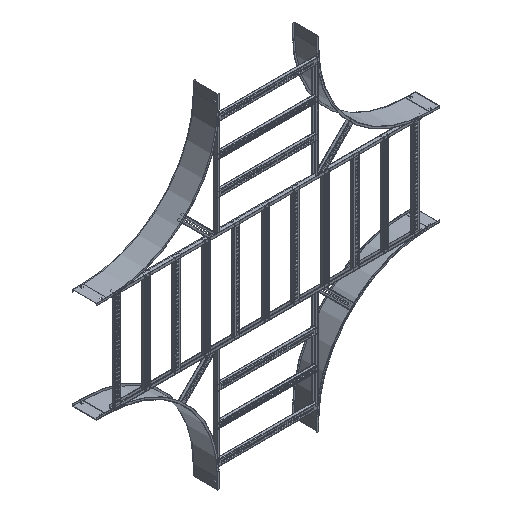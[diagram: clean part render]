
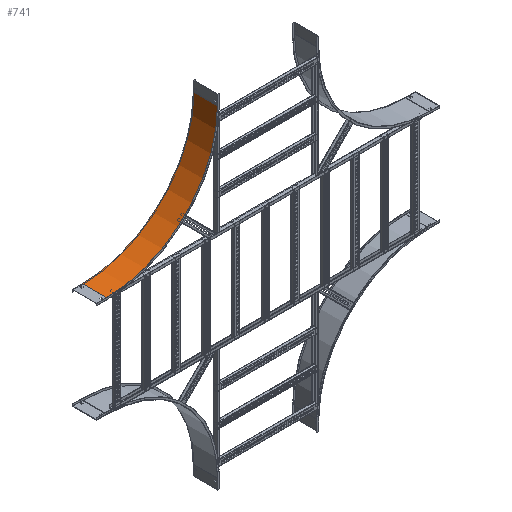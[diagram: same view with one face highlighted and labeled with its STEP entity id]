
A CAD part, isometric view. The second image highlights one B-rep face of the part: STEP entity #741.
In plain terms, the highlighted cylindrical face has radius 838.2 mm (diameter 1676.4 mm), a partial arc.
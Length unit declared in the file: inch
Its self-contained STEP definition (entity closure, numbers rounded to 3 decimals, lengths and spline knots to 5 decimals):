
#156=CARTESIAN_POINT('',(0.,-33.,3.));
#157=DIRECTION('',(1.,0.,0.));
#158=DIRECTION('',(0.,1.,0.));
#159=AXIS2_PLACEMENT_3D('',#156,#157,#158);
#165=DIRECTION('',(1.,0.,0.));
#166=VECTOR('',#165,7.24);
#167=CARTESIAN_POINT('',(-7.24,0.,3.));
#168=LINE('',#167,#166);
#169=CARTESIAN_POINT('',(-7.24,-33.,3.));
#170=DIRECTION('',(1.,0.,0.));
#171=DIRECTION('',(0.,1.,0.));
#172=AXIS2_PLACEMENT_3D('',#169,#170,#171);
#174=DIRECTION('',(1.,0.,0.));
#175=VECTOR('',#174,7.24);
#176=CARTESIAN_POINT('',(-7.24,-33.,36.));
#177=LINE('',#176,#175);
#409=CARTESIAN_POINT('',(-7.24,0.,3.));
#410=CARTESIAN_POINT('',(0.,0.,3.));
#411=VERTEX_POINT('',#409);
#412=VERTEX_POINT('',#410);
#425=CARTESIAN_POINT('',(-7.24,-33.,36.));
#426=CARTESIAN_POINT('',(0.,-33.,36.));
#427=VERTEX_POINT('',#425);
#428=VERTEX_POINT('',#426);
#729=CARTESIAN_POINT('',(-1.,-33.,3.));
#730=DIRECTION('',(1.,0.,0.));
#731=DIRECTION('',(0.,-1.,0.));
#732=AXIS2_PLACEMENT_3D('',#729,#730,#731);
#733=CYLINDRICAL_SURFACE('',#732,33.);
#734=ORIENTED_EDGE('',*,*,#553,.F.);
#735=ORIENTED_EDGE('',*,*,#596,.T.);
#737=ORIENTED_EDGE('',*,*,#736,.T.);
#738=ORIENTED_EDGE('',*,*,#715,.F.);
#739=EDGE_LOOP('',(#734,#735,#737,#738));
#740=FACE_OUTER_BOUND('',#739,.F.);
#741=ADVANCED_FACE('',(#740),#733,.F.);
#160=CIRCLE('',#159,33.);
#173=CIRCLE('',#172,33.);
#553=EDGE_CURVE('',#411,#412,#168,.T.);
#596=EDGE_CURVE('',#411,#427,#173,.T.);
#715=EDGE_CURVE('',#412,#428,#160,.T.);
#736=EDGE_CURVE('',#427,#428,#177,.T.);
